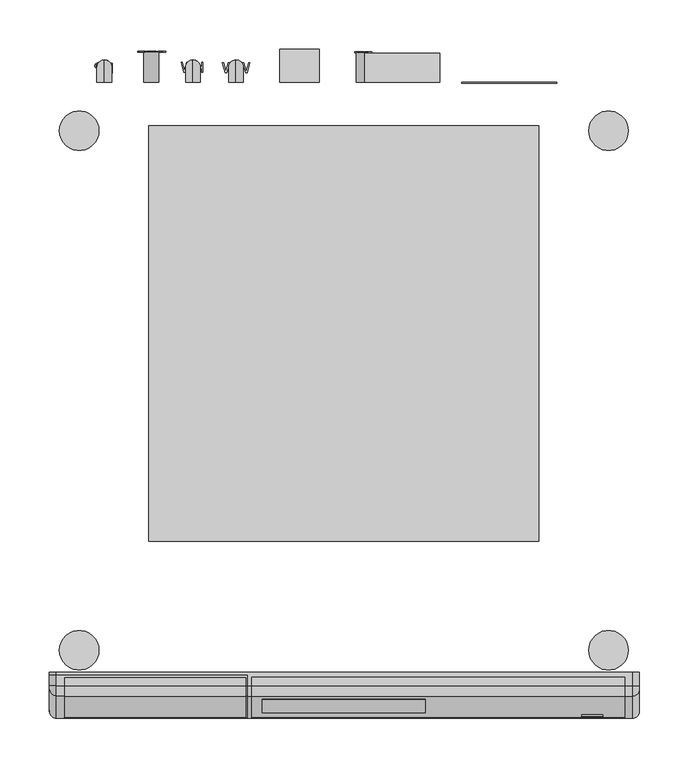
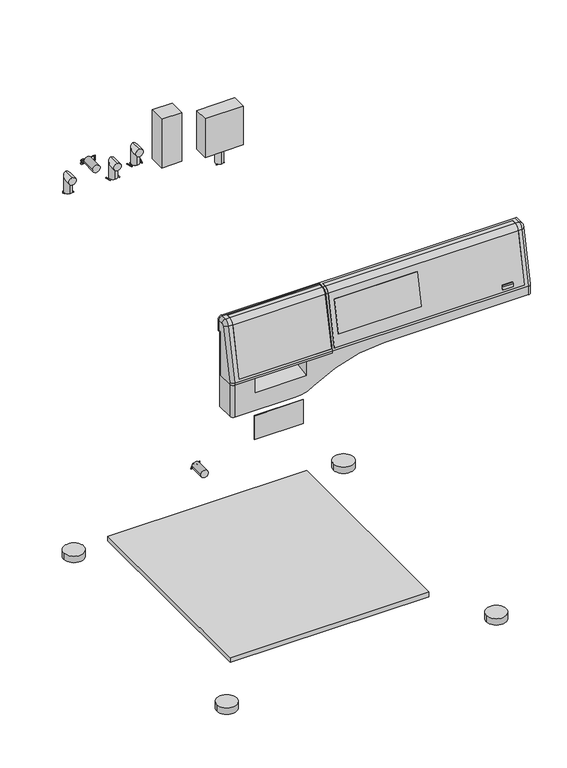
"""IFC4 building model written with IfcOpenShell, lengths in millimetres: proxy geometry, 11094070_F_PWM906DP_SST : 51906351_F_11094070_PWM906DP_SST."""

from ifc_helpers import new_model, si_unit, point, frame, frame_2d, origin, origin_with_axes, place, context, project, spatial, polyline, circle_curve, ellipse_curve, trimmed, segment, composite_curve, outline, extrude, source, transform, mapped, element, save
from ifc_brep_helpers import plane_surface, cylinder_surface, revolved_surface, advanced_brep


def specialty_equipment_d2f98325(model_context):
    return source(origin(), model_context, "Body", "SolidModel", [
        advanced_brep(
        [(-297.5, -634.5, 819.0), (-297.5, -640.0, 819.0), (-297.5, -640.0, 727.0), (-297.5, -671.0, 727.0), (-297.5, -671.0, 730.2642704), (-297.5, -648.6353607, 835.4816256), (-297.5, -644.8274781, 838.6486082), (-297.5, -634.5, 838.9190427), (-97.5, -655.4823939, 836.9370075), (-97.5, -678.0, 731.0), (-97.5, -678.0, 727.0), (-97.5, -640.0, 727.0), (-97.5, -640.0, 819.0), (-97.5, -634.5, 819.0), (-97.5, -634.5, 845.9214422), (-97.5, -645.0107168, 845.6462094), (-98.5, -655.4823939, 836.9370075), (-98.5, -677.1497738, 735.0), (-282.5, -677.1497738, 735.0), (-282.5, -655.4823939, 836.9370075), (-290.5, -655.4823939, 836.9370075), (-290.5, -678.0, 731.0), (-290.5, -678.0, 727.0), (-290.5, -634.5, 845.9214422), (-290.5, -645.0107168, 845.6462094), (-282.5, -645.0107168, 845.6462094), (-282.5, -636.5, 845.8690704), (-98.5, -636.5, 845.8690704), (-98.5, -645.0107168, 845.6462094), (-98.5, -654.5042463, 836.7290958), (-98.5, -676.1274332, 735.0), (-98.5, -636.5, 844.8687276), (-98.5, -644.9845398, 844.6465521), (-282.5, -654.5042463, 836.7290958), (-282.5, -644.9845398, 844.6465521), (-282.5, -636.5, 844.8687276), (-282.5, -676.1274332, 735.0)],
        [
            (0, 1),
            (1, 2),
            (2, 3),
            (3, 4),
            (4, 5),
            (5, 6, circle_curve(frame((-297.5, -644.7227703, 834.6499789), z_axis=(-1.0, 0.0, 0.0), x_axis=(0.0, -0.978147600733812, 0.20791169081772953)), 4.0)),
            (6, 7),
            (7, 0),
            (8, 9),
            (9, 10),
            (10, 11),
            (11, 12),
            (12, 13),
            (13, 14),
            (14, 15),
            (15, 8, circle_curve(frame((-97.5, -644.7227703, 834.6499789), z_axis=(1.0, 0.0, 0.0), x_axis=(0.0, 1.0, 0.0)), 11.0)),
            (8, 16),
            (16, 17),
            (17, 18),
            (18, 19),
            (19, 20),
            (20, 21),
            (21, 9),
            (21, 22),
            (22, 10),
            (22, 3, circle_curve(frame((-290.5, -671.0, 727.0), z_axis=(0.0, 0.0, -1.0), x_axis=(0.0, 1.0, 0.0)), 7.0)),
            (2, 11),
            (1, 12),
            (0, 13),
            (7, 23, ellipse_curve(frame((-290.5, -634.5, 838.9190427), z_axis=(0.0, 1.0, 0.0), x_axis=(0.0, 0.0, 1.0)), 7.0023995, 7.0)),
            (23, 14),
            (23, 24),
            (24, 25),
            (25, 26),
            (26, 27),
            (27, 28),
            (28, 15),
            (28, 16, circle_curve(frame((-98.5, -644.7227703, 834.6499789), z_axis=(1.0, 0.0, 0.0), x_axis=(0.0, 1.0, 0.0)), 11.0)),
            (19, 25, circle_curve(frame((-282.5, -644.7227703, 834.6499789), z_axis=(-1.0, 0.0, 0.0), x_axis=(0.0, 1.0, 0.0)), 11.0)),
            (24, 20, circle_curve(frame((-290.5, -644.7227703, 834.6499789), z_axis=(1.0, 0.0, 0.0), x_axis=(0.0, 1.0, 0.0)), 11.0)),
            (29, 30),
            (30, 17),
            (27, 31),
            (31, 32),
            (32, 29, circle_curve(frame((-98.5, -644.7227703, 834.6499789), z_axis=(1.0, 0.0, 0.0), x_axis=(0.0, 1.0, 0.0)), 10.0)),
            (33, 34, circle_curve(frame((-282.5, -644.7227703, 834.6499789), z_axis=(-1.0, 0.0, 0.0), x_axis=(0.0, 1.0, 0.0)), 10.0)),
            (34, 35),
            (35, 26),
            (18, 36),
            (36, 33),
            (29, 33),
            (36, 30),
            (32, 34),
            (31, 35),
            (21, 4, ellipse_curve(frame((-290.5, -671.0, 730.2642704), z_axis=(0.0, -0.10452846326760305, -0.9945218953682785), x_axis=(0.0, -0.9945218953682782, 0.1045284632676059)), 7.038558, 7.0)),
            (20, 5, circle_curve(frame((-290.5, -648.6353607, 835.4816256), z_axis=(0.0, -0.2079116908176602, -0.9781476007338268), x_axis=(0.0, 0.9781476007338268, -0.2079116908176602)), 7.0)),
            (24, 6, circle_curve(frame((-290.5, -644.8274781, 838.6486082), z_axis=(0.0, -0.9996573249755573, -0.026176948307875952), x_axis=(0.0, 0.026176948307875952, -0.9996573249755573)), 7.0)),
        ],
        [
            plane_surface(frame((-297.5, -655.4823939, 836.9370075), z_axis=(-1.0, 0.0, 0.0), x_axis=(0.0, 0.20791169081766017, 0.9781476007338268))),
            plane_surface(frame((-97.5, -655.4823939, 836.9370075), z_axis=(1.0, 0.0, 0.0), x_axis=(0.0, -0.20791169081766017, -0.9781476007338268))),
            plane_surface(frame((-97.5, -655.4823939, 836.9370075), z_axis=(0.0, -0.9781476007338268, 0.20791169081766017), x_axis=(-1.0, 0.0, 0.0))),
            plane_surface(frame((-97.5, -678.0, 731.0), z_axis=(0.0, -1.0, 0.0), x_axis=(-1.0, 0.0, 0.0))),
            plane_surface(frame((-97.5, -678.0, 727.0), z_axis=(0.0, 0.0, -1.0), x_axis=(-1.0, 0.0, 0.0))),
            plane_surface(frame((-97.5, -640.0, 727.0), z_axis=(0.0, 1.0, 0.0), x_axis=(-1.0, 0.0, 0.0))),
            plane_surface(frame((-97.5, -640.0, 819.0), z_axis=(0.0, 0.0, -1.0), x_axis=(-1.0, 0.0, 0.0))),
            plane_surface(frame((-97.5, -634.5, 819.0), z_axis=(0.0, 1.0, 0.0), x_axis=(-1.0, 0.0, 0.0))),
            plane_surface(frame((-97.5, -634.5, 845.9214422), z_axis=(0.0, -0.02617694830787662, 0.9996573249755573), x_axis=(-1.0, 0.0, 0.0))),
            cylinder_surface(frame((-297.5, -644.7227703, 834.6499789), z_axis=(1.0, 0.0, 0.0), x_axis=(0.0, 1.0, 0.0)), 11.0),
            plane_surface(frame((-98.5, -634.7227703, 834.6499789), z_axis=(-1.0, 0.0, 0.0), x_axis=(0.0, 0.0, -1.0))),
            plane_surface(frame((-282.5, -634.7227703, 834.6499789), z_axis=(1.0, 0.0, 0.0), x_axis=(0.0, 0.0, 1.0))),
            plane_surface(frame((-98.5, -676.1274332, 735.0), z_axis=(0.0, -0.9781476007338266, 0.2079116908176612), x_axis=(-1.0, 0.0, 0.0))),
            cylinder_surface(frame((-282.5, -644.7227703, 834.6499789), z_axis=(-1.0, 0.0, 0.0), x_axis=(0.0, 1.0, 0.0)), 10.0),
            plane_surface(frame((-98.5, -644.9845398, 844.6465521), z_axis=(0.0, -0.026176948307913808, 0.9996573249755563), x_axis=(-1.0, 0.0, 0.0))),
            plane_surface(frame((-98.5, -636.5, 844.8687276), z_axis=(0.0, -1.0, 0.0), x_axis=(-1.0, 0.0, 0.0))),
            plane_surface(frame((-98.5, -677.1497738, 735.0), z_axis=(0.0, 0.0, 1.0), x_axis=(-1.0, 0.0, 0.0))),
            cylinder_surface(frame((-290.5, -671.0, 727.0), z_axis=(0.0, 0.0, 1.0), x_axis=(0.0, 1.0, 0.0)), 7.0),
            cylinder_surface(frame((-290.5, -671.1529668, 729.5446182), z_axis=(0.0, 0.2079116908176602, 0.9781476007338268), x_axis=(0.0, 0.9781476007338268, -0.2079116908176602)), 7.0),
            revolved_surface(trimmed(ellipse_curve(frame((-290.5, -648.6353607, 835.4816256), z_axis=(0.0, -0.20791169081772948, -0.978147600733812), x_axis=(0.0, 0.978147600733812, -0.20791169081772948)), 7.0, 7.0), [point((-290.5, -655.4823939, 836.9370075))], [point((-297.5, -648.6353607, 835.4816256))], True, "CARTESIAN"), (-297.5, -644.7227703, 834.6499789), (-1.0, 0.0, 0.0)),
            cylinder_surface(frame((-290.5, -644.8274781, 838.6486082), z_axis=(0.0, 0.9996573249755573, 0.026176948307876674), x_axis=(0.0, 0.026176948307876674, -0.9996573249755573)), 7.0),
        ],
        [
            (0, [[1, 2, 3, 4, 5, 6, 7, 8]]),
            (1, [[9, 10, 11, 12, 13, 14, 15, 16]]),
            (2, [[-9, 17, 18, 19, 20, 21, 22, 23]]),
            (3, [[-10, -23, 24, 25]]),
            (4, [[-11, -25, 26, -3, 27]]),
            (5, [[-2, 28, -12, -27]]),
            (6, [[-1, 29, -13, -28]]),
            (7, [[-14, -29, -8, 30, 31]]),
            (8, [[-15, -31, 32, 33, 34, 35, 36, 37]]),
            (9, [[-16, -37, 38, -17]]),
            (9, [[39, -33, 40, -21]]),
            (10, [[41, 42, -18, -38, -36, 43, 44, 45]]),
            (11, [[46, 47, 48, -34, -39, -20, 49, 50]]),
            (12, [[-41, 51, -50, 52]]),
            (13, [[-45, 53, -46, -51]]),
            (14, [[-44, 54, -47, -53]]),
            (15, [[-43, -35, -48, -54]]),
            (16, [[-42, -52, -49, -19]]),
            (17, [[55, -4, -26, -24]]),
            (18, [[-55, -22, 56, -5]]),
            (19, [[-56, -40, 57, -6]]),
            (20, [[-57, -32, -30, -7]]),
        ],
    ),
        extrude(outline(polyline([(-671.2386322, 758.0), (-672.2609728, 758.0), (-658.4447963, 823.0), (-657.4224557, 823.0), (-671.2386322, 758.0)])), frame((-82.5, 0.0, 0.0), z_axis=(1.0, 0.0, 0.0), x_axis=(0.0, 1.0, 0.0)), (0.0, 0.0, 1.0), 165.0),
        advanced_brep(
        [(284.0, -654.5042463, 836.7290958), (284.0, -644.9845398, 844.6465521), (284.0, -636.5, 844.8687276), (284.0, -636.5, 845.8690704), (284.0, -645.0107168, 845.6462094), (284.0, -655.4823939, 836.9370075), (284.0, -677.1497738, 735.0), (284.0, -676.1274332, 735.0), (-93.0, -654.5042463, 836.7290958), (-93.0, -676.1274332, 735.0), (-93.0, -677.1497738, 735.0), (-93.0, -655.4823939, 836.9370075), (-93.0, -645.0107168, 845.6462094), (-93.0, -636.5, 845.8690704), (-93.0, -636.5, 844.8687276), (-93.0, -644.9845398, 844.6465521), (82.5, -658.4447963, 823.0), (82.5, -672.2609728, 758.0), (-82.5, -672.2609728, 758.0), (-82.5, -658.4447963, 823.0), (82.5, -671.2386322, 758.0), (82.5, -657.4224557, 823.0), (-82.5, -657.4224557, 823.0), (-82.5, -671.2386322, 758.0)],
        [
            (0, 1, circle_curve(frame((284.0, -644.7227703, 834.6499789), z_axis=(-1.0, 0.0, 0.0), x_axis=(0.0, 1.0, 0.0)), 10.0)),
            (1, 2),
            (2, 3),
            (3, 4),
            (4, 5, circle_curve(frame((284.0, -644.7227703, 834.6499789), z_axis=(1.0, 0.0, 0.0), x_axis=(0.0, 1.0, 0.0)), 11.0)),
            (5, 6),
            (6, 7),
            (7, 0),
            (8, 9),
            (9, 10),
            (10, 11),
            (11, 12, circle_curve(frame((-93.0, -644.7227703, 834.6499789), z_axis=(-1.0, 0.0, 0.0), x_axis=(0.0, 1.0, 0.0)), 11.0)),
            (12, 13),
            (13, 14),
            (14, 15),
            (15, 8, circle_curve(frame((-93.0, -644.7227703, 834.6499789), z_axis=(1.0, 0.0, 0.0), x_axis=(0.0, 1.0, 0.0)), 10.0)),
            (0, 8),
            (15, 1),
            (14, 2),
            (13, 3),
            (12, 4),
            (11, 5),
            (10, 6),
            (16, 17),
            (17, 18),
            (18, 19),
            (19, 16),
            (9, 7),
            (20, 21),
            (21, 22),
            (22, 23),
            (23, 20),
            (20, 17),
            (16, 21),
            (22, 19),
            (18, 23),
        ],
        [
            plane_surface(frame((284.0, -634.7227703, 834.6499789), z_axis=(1.0, 0.0, 0.0), x_axis=(0.0, 0.0, -1.0))),
            plane_surface(frame((-93.0, -634.7227703, 834.6499789), z_axis=(-1.0, 0.0, 0.0), x_axis=(0.0, 0.0, 1.0))),
            revolved_surface(polyline([(-93.0, -634.7227703, 834.6499789), (284.0, -634.7227703, 834.6499789)]), (-93.0, -644.7227703, 834.6499789), (-1.0, 0.0, 0.0)),
            plane_surface(frame((284.0, -644.9845398, 844.6465521), z_axis=(0.0, 0.02617694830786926, -0.9996573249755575), x_axis=(-1.0, 0.0, 0.0))),
            plane_surface(frame((284.0, -636.5, 844.8687276), z_axis=(0.0, 1.0, 0.0), x_axis=(-1.0, 0.0, 0.0))),
            plane_surface(frame((284.0, -636.5, 845.8690704), z_axis=(0.0, -0.026176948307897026, 0.9996573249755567), x_axis=(-1.0, 0.0, 0.0))),
            cylinder_surface(frame((-93.0, -644.7227703, 834.6499789), z_axis=(1.0, 0.0, 0.0), x_axis=(0.0, 1.0, 0.0)), 11.0),
            plane_surface(frame((284.0, -655.4823939, 836.9370075), z_axis=(0.0, -0.9781476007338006, 0.20791169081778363), x_axis=(-1.0, 0.0, 0.0))),
            plane_surface(frame((284.0, -677.1497738, 735.0), z_axis=(0.0, 0.0, -1.0), x_axis=(-1.0, 0.0, 0.0))),
            plane_surface(frame((284.0, -676.1274332, 735.0), z_axis=(0.0, 0.9781476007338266, -0.2079116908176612), x_axis=(-1.0, 0.0, 0.0))),
            plane_surface(frame((82.5, -658.4447963, 823.0), z_axis=(-1.0, 0.0, 0.0), x_axis=(0.0, -1.0, 0.0))),
            plane_surface(frame((-82.5, -658.4447963, 823.0), z_axis=(1.0, 0.0, 0.0), x_axis=(0.0, 1.0, 0.0))),
            plane_surface(frame((82.5, -657.4224557, 823.0), z_axis=(0.0, 0.0, -1.0), x_axis=(-1.0, 0.0, 0.0))),
            plane_surface(frame((82.5, -672.2609728, 758.0), z_axis=(0.0, 0.0, 1.0), x_axis=(-1.0, 0.0, 0.0))),
        ],
        [
            (0, [[1, 2, 3, 4, 5, 6, 7, 8]]),
            (1, [[9, 10, 11, 12, 13, 14, 15, 16]]),
            (2, [[-1, 17, -16, 18]]),
            (3, [[-2, -18, -15, 19]]),
            (4, [[-3, -19, -14, 20]]),
            (5, [[-4, -20, -13, 21]]),
            (6, [[-5, -21, -12, 22]]),
            (7, [[-6, -22, -11, 23], [24, 25, 26, 27]]),
            (8, [[-7, -23, -10, 28]]),
            (9, [[-8, -28, -9, -17], [29, 30, 31, 32]]),
            (10, [[33, -24, 34, -29]]),
            (11, [[35, -26, 36, -31]]),
            (12, [[-34, -27, -35, -30]]),
            (13, [[-33, -32, -36, -25]]),
        ],
    ),
        advanced_brep(
        [(298.5, -637.0, 816.0), (298.5, -631.5, 816.0), (298.5, -631.5, 838.9976005), (298.5, -644.8274781, 838.6486082), (298.5, -648.6353607, 835.4816256), (298.5, -671.0, 730.2642704), (298.5, -671.0, 713.0), (298.5, -637.0, 713.0), (-297.5, -637.0, 816.0), (-297.5, -637.0, 660.0), (-297.5, -671.0, 660.0), (-297.5, -671.0, 727.0), (-297.5, -640.0, 727.0), (-297.5, -640.0, 819.0), (-297.5, -634.5, 819.0), (-297.5, -634.5, 838.9190427), (-297.5, -631.5, 838.9976005), (-297.5, -631.5, 816.0), (-290.5, -631.5, 846.0), (291.5, -631.5, 846.0), (284.0, -636.5, 845.8690704), (284.0, -645.0107168, 845.6462094), (291.5, -645.0107168, 845.6462094), (-290.5, -634.5, 845.9214422), (-97.5, -634.5, 845.9214422), (-97.5, -645.0107168, 845.6462094), (-93.0, -645.0107168, 845.6462094), (-93.0, -636.5, 845.8690704), (284.0, -655.4823939, 836.9370075), (291.5000072, -655.4823939, 836.9370075), (-93.0, -655.4823939, 836.9370075), (-97.5, -655.4823939, 836.9370075), (284.0, -677.1497738, 735.0), (-93.0, -677.1497738, 735.0), (-97.5, -678.0, 731.0), (291.5, -678.0, 731.0), (-97.5, -678.0, 727.0), (-148.5, -678.0, 727.0), (-148.5, -678.0, 697.0), (-251.5, -678.0, 697.0), (-251.5, -678.0, 727.0), (-290.5, -678.0, 727.0), (-290.5, -678.0, 660.0), (-170.6302935, -678.0, 660.0), (-135.780818, -678.0, 670.5165354), (5.0, -678.0, 713.0), (291.5, -678.0, 713.0), (-170.6302935, -637.0, 660.0), (5.0, -637.0, 713.0), (-135.780818, -637.0, 670.5165354), (284.0, -636.5, 844.8687276), (284.0, -644.9845398, 844.6465521), (284.0, -654.5042463, 836.7290958), (284.0, -676.1274332, 735.0), (-93.0, -676.1274332, 735.0), (-93.0, -654.5042463, 836.7290958), (-93.0, -644.9845398, 844.6465521), (-93.0, -636.5, 844.8687276), (-97.5, -634.5, 819.0), (-97.5, -640.0, 819.0), (-97.5, -640.0, 727.0), (-148.5, -640.0, 727.0), (-251.5, -640.0, 727.0), (-251.5, -640.0, 703.7004253), (-148.5, -640.0, 703.7004253)],
        [
            (0, 1),
            (1, 2),
            (2, 3),
            (3, 4, circle_curve(frame((298.5, -644.7227703, 834.6499789), z_axis=(1.0, 0.0, 0.0), x_axis=(0.0, -0.02617694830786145, 0.9996573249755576)), 4.0)),
            (4, 5),
            (5, 6),
            (6, 7),
            (7, 0),
            (8, 9),
            (9, 10),
            (10, 11),
            (11, 12),
            (12, 13),
            (13, 14),
            (14, 15),
            (15, 16),
            (16, 17),
            (17, 8),
            (0, 8),
            (17, 1),
            (16, 18, ellipse_curve(frame((-290.5, -631.5, 838.9976005), z_axis=(0.0, 1.0, 0.0), x_axis=(0.0, 0.0, 0.9999999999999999)), 7.0023995, 7.0)),
            (18, 19),
            (19, 2, ellipse_curve(frame((291.5, -631.5, 838.9976005), z_axis=(0.0, 1.0, 0.0), x_axis=(0.0, 0.0, -1.0)), 7.0023995, 7.0)),
            (20, 21),
            (21, 22),
            (22, 19),
            (18, 23),
            (23, 24),
            (24, 25),
            (25, 26),
            (26, 27),
            (27, 20),
            (21, 28, circle_curve(frame((284.0, -644.7227703, 834.6499789), z_axis=(1.0, 0.0, 0.0), x_axis=(0.0, 1.0, 0.0)), 11.0)),
            (28, 29),
            (29, 22, circle_curve(frame((291.5, -644.7227703, 834.6499789), z_axis=(-1.0, 0.0, 0.0), x_axis=(0.0, 1.0, 0.0)), 11.0)),
            (30, 26, circle_curve(frame((-93.0, -644.7227703, 834.6499789), z_axis=(-1.0, 0.0, 0.0), x_axis=(0.0, 1.0, 0.0)), 11.0)),
            (25, 31, circle_curve(frame((-97.5, -644.7227703, 834.6499789), z_axis=(1.0, 0.0, 0.0), x_axis=(0.0, 1.0, 0.0)), 11.0)),
            (31, 30),
            (28, 32),
            (32, 33),
            (33, 30),
            (31, 34),
            (34, 35),
            (35, 29),
            (34, 36),
            (36, 37),
            (37, 38),
            (38, 39),
            (39, 40),
            (40, 41),
            (41, 42),
            (42, 43),
            (43, 44, circle_curve(frame((-170.6302935, -678.0, 723.0), z_axis=(0.0, -1.0, 0.0), x_axis=(1.0, 0.0, 0.0)), 63.0)),
            (44, 45, circle_curve(frame((5.0, -678.0, 458.5), z_axis=(0.0, 1.0, 0.0), x_axis=(1.0, 0.0, 0.0)), 254.5)),
            (45, 46),
            (46, 35),
            (9, 47),
            (47, 43),
            (42, 10, circle_curve(frame((-290.5, -671.0, 660.0), z_axis=(0.0, 0.0, -1.0), x_axis=(0.0, 1.0, 0.0)), 7.0)),
            (7, 48),
            (48, 49, circle_curve(frame((5.0, -637.0, 458.5), z_axis=(0.0, -1.0, 0.0), x_axis=(1.0, 0.0, 0.0)), 254.5)),
            (49, 47, circle_curve(frame((-170.6302935, -637.0, 723.0), z_axis=(0.0, 1.0, 0.0), x_axis=(1.0, 0.0, 0.0)), 63.0)),
            (20, 50),
            (50, 51),
            (51, 52, circle_curve(frame((284.0, -644.7227703, 834.6499789), z_axis=(1.0, 0.0, 0.0), x_axis=(0.0, 1.0, 0.0)), 10.0)),
            (52, 53),
            (53, 32),
            (33, 54),
            (54, 55),
            (55, 56, circle_curve(frame((-93.0, -644.7227703, 834.6499789), z_axis=(-1.0, 0.0, 0.0), x_axis=(0.0, 1.0, 0.0)), 10.0)),
            (56, 57),
            (57, 27),
            (53, 54),
            (52, 55),
            (51, 56),
            (50, 57),
            (24, 58),
            (58, 59),
            (59, 60),
            (60, 36),
            (60, 61),
            (61, 37),
            (62, 12),
            (11, 41, circle_curve(frame((-290.5, -671.0, 727.0), z_axis=(0.0, 0.0, 1.0), x_axis=(0.0, 1.0, 0.0)), 7.0)),
            (40, 62),
            (59, 13),
            (62, 63),
            (63, 64),
            (64, 61),
            (58, 14),
            (23, 15, ellipse_curve(frame((-290.5, -634.5, 838.9190427), z_axis=(0.0, -1.0, 0.0), x_axis=(0.0, 0.0, 0.9999999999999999)), 7.0023995, 7.0)),
            (64, 38),
            (39, 63),
            (22, 3, circle_curve(frame((291.5, -644.8274781, 838.6486082), z_axis=(0.0, 0.9996573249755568, 0.02617694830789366), x_axis=(1.0, 0.0, 0.0)), 7.0)),
            (29, 4, circle_curve(frame((291.5, -648.6353607, 835.4816256), z_axis=(0.0, 0.20791169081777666, 0.9781476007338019), x_axis=(1.0, 0.0, 0.0)), 7.0)),
            (35, 5, ellipse_curve(frame((291.5, -671.0, 730.2642704), z_axis=(0.0, 0.10452846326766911, 0.9945218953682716), x_axis=(0.0, -0.9945218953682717, 0.10452846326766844)), 7.038558, 7.0)),
            (46, 6, circle_curve(frame((291.5, -671.0, 713.0), z_axis=(0.0, 0.0, 1.0), x_axis=(1.0, 0.0, 0.0)), 7.0)),
            (45, 48),
            (44, 49),
        ],
        [
            plane_surface(frame((298.5, -631.5, 816.0), z_axis=(1.0, 0.0, 0.0), x_axis=(0.0, 1.0, 0.0))),
            plane_surface(frame((-297.5, -631.5, 816.0), z_axis=(-1.0, 0.0, 0.0), x_axis=(0.0, -1.0, 0.0))),
            plane_surface(frame((298.5, -637.0, 816.0), z_axis=(0.0, 0.0, -1.0), x_axis=(-1.0, 0.0, 0.0))),
            plane_surface(frame((298.5, -631.5, 816.0), z_axis=(0.0, 1.0, 0.0), x_axis=(-1.0, 0.0, 0.0))),
            plane_surface(frame((298.5, -631.5, 846.0), z_axis=(0.0, -0.026176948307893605, 0.9996573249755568), x_axis=(-1.0, 0.0, 0.0))),
            cylinder_surface(frame((-297.5, -644.7227703, 834.6499789), z_axis=(1.0, 0.0, 0.0), x_axis=(0.0, 1.0, 0.0)), 11.0),
            plane_surface(frame((298.5, -655.4823939, 836.9370075), z_axis=(0.0, -0.9781476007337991, 0.20791169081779), x_axis=(-1.0, 0.0, 0.0))),
            plane_surface(frame((298.5, -678.0, 731.0), z_axis=(0.0, -1.0, 0.0), x_axis=(-1.0, 0.0, 0.0))),
            plane_surface(frame((298.5, -678.0, 660.0), z_axis=(0.0, 0.0, -1.0), x_axis=(-1.0, 0.0, 0.0))),
            plane_surface(frame((298.5, -637.0, 660.0), z_axis=(0.0, 1.0, 0.0), x_axis=(-1.0, 0.0, 0.0))),
            plane_surface(frame((284.0, -677.1497738, 735.0), z_axis=(-1.0, 0.0, 0.0), x_axis=(0.0, 1.0, 0.0))),
            plane_surface(frame((-93.0, -677.1497738, 735.0), z_axis=(1.0, 0.0, 0.0), x_axis=(0.0, -1.0, 0.0))),
            plane_surface(frame((284.0, -677.1497738, 735.0), z_axis=(0.0, 0.0, 1.0), x_axis=(-1.0, 0.0, 0.0))),
            plane_surface(frame((284.0, -676.1274332, 735.0), z_axis=(0.0, -0.9781476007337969, 0.20791169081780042), x_axis=(-1.0, 0.0, 0.0))),
            cylinder_surface(frame((-93.0, -644.7227703, 834.6499789), z_axis=(-1.0, 0.0, 0.0), x_axis=(0.0, 1.0, 0.0)), 10.0),
            plane_surface(frame((284.0, -644.9845398, 844.6465521), z_axis=(0.0, -0.026176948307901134, 0.9996573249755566), x_axis=(-1.0, 0.0, 0.0))),
            plane_surface(frame((284.0, -636.5, 844.8687276), z_axis=(0.0, -1.0, 0.0), x_axis=(-1.0, 0.0, 0.0))),
            plane_surface(frame((-97.5, -678.0, 727.0), z_axis=(-1.0, 0.0, 0.0), x_axis=(0.0, 1.0, 0.0))),
            plane_surface(frame((-97.5, -678.0, 727.0), z_axis=(0.0, 0.0, 1.0), x_axis=(-1.0, 0.0, 0.0))),
            plane_surface(frame((-97.5, -640.0, 727.0), z_axis=(0.0, -1.0, 0.0), x_axis=(-1.0, 0.0, 0.0))),
            plane_surface(frame((-97.5, -640.0, 819.0), z_axis=(0.0, 0.0, 1.0), x_axis=(-1.0, 0.0, 0.0))),
            plane_surface(frame((-97.5, -634.5, 819.0), z_axis=(0.0, -1.0, 0.0), x_axis=(-1.0, 0.0, 0.0))),
            plane_surface(frame((-148.5, -678.0, 697.0), z_axis=(-1.0000000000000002, 0.0, 0.0), x_axis=(0.0, 0.9848077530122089, 0.17364817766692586))),
            plane_surface(frame((-251.5, -678.0, 697.0), z_axis=(1.0000000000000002, 0.0, 0.0), x_axis=(0.0, -0.9848077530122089, -0.17364817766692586))),
            plane_surface(frame((-148.5, -678.0, 697.0), z_axis=(0.0, -0.17364817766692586, 0.9848077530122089), x_axis=(-1.0, 0.0, 0.0))),
            cylinder_surface(frame((-290.5, -671.0, 660.0), z_axis=(0.0, 0.0, 1.0), x_axis=(0.0, 1.0, 0.0)), 7.0),
            cylinder_surface(frame((-290.5, -644.8274781, 838.6486082), z_axis=(0.0, 0.9996573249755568, 0.02617694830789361), x_axis=(0.0, 0.02617694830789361, -0.9996573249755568)), 7.0),
            cylinder_surface(frame((291.5, -631.3167614, 839.0023987), z_axis=(0.0, -0.9996573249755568, -0.02617694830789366), x_axis=(1.0, 0.0, 0.0)), 7.0),
            revolved_surface(trimmed(ellipse_curve(frame((291.5, -644.8274781, 838.6486082), z_axis=(0.0, 0.9996573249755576, 0.026176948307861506), x_axis=(1.0, 0.0, 0.0)), 7.0, 7.0), [point((291.5, -645.0107168, 845.6462094))], [point((298.5, -644.8274781, 838.6486082))], True, "CARTESIAN"), (298.5, -644.7227703, 834.6499789), (1.0, 0.0, 0.0)),
            cylinder_surface(frame((291.5, -648.6353607, 835.4816256), z_axis=(0.0, -0.20791169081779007, -0.9781476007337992), x_axis=(1.0, 0.0, 0.0)), 7.0),
            cylinder_surface(frame((291.5, -671.0, 731.0), z_axis=(0.0, 0.0, -1.0), x_axis=(1.0, 0.0, 0.0)), 7.0),
            plane_surface(frame((298.5, -678.0, 713.0), z_axis=(0.0, 0.0, -1.0), x_axis=(0.0, 1.0, 0.0))),
            revolved_surface(polyline([(259.5, -678.0, 458.5), (259.5, -637.0, 458.5)]), (5.0, -637.0, 458.5), (0.0, -1.0, 0.0)),
            cylinder_surface(frame((-170.6302935, -637.0, 723.0), z_axis=(0.0, 1.0, 0.0), x_axis=(1.0, 0.0, 0.0)), 63.0),
        ],
        [
            (0, [[1, 2, 3, 4, 5, 6, 7, 8]]),
            (1, [[9, 10, 11, 12, 13, 14, 15, 16, 17, 18]]),
            (2, [[-1, 19, -18, 20]]),
            (3, [[-20, -17, 21, 22, 23, -2]]),
            (4, [[24, 25, 26, -22, 27, 28, 29, 30, 31, 32]]),
            (5, [[33, 34, 35, -25]]),
            (5, [[36, -30, 37, 38]]),
            (6, [[39, 40, 41, -38, 42, 43, 44, -34]]),
            (7, [[45, 46, 47, 48, 49, 50, 51, 52, 53, 54, 55, 56, -43]]),
            (8, [[-10, 57, 58, -52, 59]]),
            (9, [[-9, -19, -8, 60, 61, 62, -57]]),
            (10, [[63, 64, 65, 66, 67, -39, -33, -24]]),
            (11, [[68, 69, 70, 71, 72, -31, -36, -41]]),
            (12, [[-67, 73, -68, -40]]),
            (13, [[-66, 74, -69, -73]]),
            (14, [[-65, 75, -70, -74]]),
            (15, [[-64, 76, -71, -75]]),
            (16, [[-63, -32, -72, -76]]),
            (17, [[77, 78, 79, 80, -45, -42, -37, -29]]),
            (18, [[-80, 81, 82, -46]]),
            (18, [[83, -12, 84, -50, 85]]),
            (19, [[-79, 86, -13, -83, 87, 88, 89, -81]]),
            (20, [[-78, 90, -14, -86]]),
            (21, [[-77, -28, 91, -15, -90]]),
            (22, [[-89, 92, -47, -82]]),
            (23, [[93, -87, -85, -49]]),
            (24, [[-92, -88, -93, -48]]),
            (25, [[-11, -59, -51, -84]]),
            (26, [[-16, -91, -27, -21]]),
            (27, [[94, -3, -23, -26]]),
            (28, [[-94, -35, 95, -4]]),
            (29, [[-95, -44, 96, -5]]),
            (30, [[-96, -56, 97, -6]]),
            (31, [[98, -60, -7, -97, -55]]),
            (32, [[-98, -54, 99, -61]]),
            (33, [[-99, -53, -58, -62]]),
        ],
    ),
        extrude(outline(polyline([(-675.8744344, 741.0), (-678.0, 741.0), (-676.8772818, 746.2819736), (-675.6098453, 749.0), (-674.1739819, 749.0), (-675.8744344, 741.0)])), frame((240.5, 0.0, 0.0), z_axis=(1.0, 0.0, 0.0), x_axis=(0.0, 1.0, 0.0)), (0.0, 0.0, 1.0), 21.0),
        extrude(outline(composite_curve([segment(polyline([(-676.1274332, 735.0), (-677.1497738, 735.0), (-655.4823939, 836.9370075)]), True, "CONTINUOUS"), segment(trimmed(circle_curve(frame_2d((-644.7227703, 834.6499789)), 11.0), [point((-655.4823939, 836.9370075))], [point((-645.0107168, 845.6462094))], False, "CARTESIAN"), True, "CONTINUOUS"), segment(polyline([(-645.0107168, 845.6462094), (-636.5, 845.8690704), (-636.5, 844.8687276), (-644.9845398, 844.6465521)]), True, "CONTINUOUS"), segment(trimmed(circle_curve(frame_2d((-644.7227703, 834.6499789)), 10.0), [point((-644.9845398, 844.6465521))], [point((-654.5042463, 836.7290958))], True, "CARTESIAN"), True, "CONTINUOUS"), segment(polyline([(-654.5042463, 836.7290958), (-676.1274332, 735.0)]), True, "CONTINUOUS")], self_intersect=False)), frame((-282.5, 0.0, 0.0), z_axis=(1.0, 0.0, 0.0), x_axis=(0.0, 1.0, 0.0)), (0.0, 0.0, 1.0), 184.0),
        advanced_brep(
        [(-242.0, -35.0, 740.5), (-242.0, -35.0, 755.5), (-242.0, -27.5, 740.5), (-242.0, -12.5, 755.5), (-242.0, -27.5, 718.0), (-242.0, -12.5, 718.0)],
        [
            (0, 1, circle_curve(frame((-242.0, -35.0, 748.0), z_axis=(0.0, -1.0, 0.0), x_axis=(0.0, 0.0, 1.0)), 7.5)),
            (1, 0, circle_curve(frame((-242.0, -35.0, 748.0), z_axis=(0.0, -1.0, 0.0), x_axis=(0.0, 0.0, 1.0)), 7.5)),
            (0, 2),
            (2, 3, ellipse_curve(frame((-242.0, -20.0, 748.0), z_axis=(0.0, -0.7071067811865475, 0.7071067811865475), x_axis=(0.0, -0.7071067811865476, -0.7071067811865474)), 10.6066017, 7.5)),
            (3, 1),
            (3, 2, ellipse_curve(frame((-242.0, -20.0, 748.0), z_axis=(0.0, -0.7071067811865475, 0.7071067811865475), x_axis=(0.0, -0.7071067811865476, -0.7071067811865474)), 10.6066017, 7.5)),
            (4, 5, circle_curve(frame((-242.0, -20.0, 718.0), z_axis=(0.0, 0.0, -1.0), x_axis=(0.0, 1.0, 0.0)), 7.5)),
            (5, 4, circle_curve(frame((-242.0, -20.0, 718.0), z_axis=(0.0, 0.0, -1.0), x_axis=(0.0, 1.0, 0.0)), 7.5)),
            (2, 4),
            (5, 3),
        ],
        [
            plane_surface(frame((-298.0, -35.0, 748.0), z_axis=(0.0, -1.0, 0.0), x_axis=(1.0, 0.0, 0.0))),
            cylinder_surface(frame((-242.0, -35.0, 748.0), z_axis=(0.0, -1.0, 0.0), x_axis=(0.0, 0.0, 1.0)), 7.5),
            plane_surface(frame((-298.0, -20.0, 718.0), z_axis=(0.0, 0.0, -1.0), x_axis=(1.0, 0.0, 0.0))),
            cylinder_surface(frame((-242.0, -20.0, 748.0), z_axis=(0.0, 0.0, 1.0), x_axis=(0.0, 1.0, 0.0)), 7.5),
        ],
        [
            (0, [[1, 2]]),
            (1, [[-1, 3, 4, 5]]),
            (1, [[-2, -5, 6, -3]]),
            (2, [[7, 8]]),
            (3, [[-4, 9, -8, 10]]),
            (3, [[-6, -10, -7, -9]]),
        ],
    ),
        extrude(outline(composite_curve([segment(trimmed(circle_curve(frame_2d((757.5, -194.5)), 7.5), [point((757.5, -187.0))], [point((757.5, -202.0))], False, "CARTESIAN"), True, "CONTINUOUS"), segment(trimmed(circle_curve(frame_2d((757.5, -194.5)), 7.5), [point((757.5, -202.0))], [point((757.5, -187.0))], False, "CARTESIAN"), True, "CONTINUOUS")], self_intersect=False)), frame((0.0, -35.0, 0.0), z_axis=(0.0, 1.0, 0.0), x_axis=(0.0, 0.0, 1.0)), (0.0, 0.0, 1.0), 30.0),
        extrude(outline(polyline([(752.5, -179.9815352), (762.545631, -179.9815352), (762.545631, -183.4469836), (762.4009308, -185.2397952), (761.6823346, -186.7162282), (759.965552, -187.9057134), (757.5767715, -188.3005734), (755.5497417, -188.0332458), (754.0867977, -187.3465327), (753.1756766, -186.4292803), (752.6716783, -185.2287587), (752.5, -183.6137568), (752.5, -179.9815352)]), holes=[polyline([(753.7557039, -181.2372391), (753.7557039, -183.4592463), (753.9371923, -185.0754745), (754.4497746, -186.0074423), (755.6968945, -186.7714105), (757.5963919, -187.0448695), (759.9753621, -186.5089881), (761.0888183, -185.2054595), (761.2899271, -183.4249107), (761.2899271, -181.2372391), (753.7557039, -181.2372391)])]), frame((0.0, -5.0, 0.0), z_axis=(0.0, 1.0, 0.0), x_axis=(0.0, 0.0, 1.0)), (0.0, 0.0, 1.0), 1.0),
        extrude(outline(polyline([(757.390378, -189.5562772), (761.2923797, -190.8953677), (762.702594, -194.3510059), (762.0404064, -196.8501509), (760.1936388, -198.5473132), (757.5056477, -199.1310193), (754.7808684, -198.5166564), (752.9610788, -196.7753483), (752.343037, -194.3436483), (753.0260713, -191.8175252), (754.8900067, -190.1301732), (757.390378, -189.5562772)]), holes=[polyline([(757.3781153, -190.8119811), (754.6091901, -191.816299), (753.5987409, -194.3362906), (754.6190003, -196.8783552), (757.5154579, -197.8753154), (759.5878598, -197.4485723), (760.9600596, -196.2014524), (761.4468901, -194.3583636), (760.508791, -191.8592185), (757.3781153, -190.8119811)])]), frame((0.0, -5.0, 0.0), z_axis=(0.0, 1.0, 0.0), x_axis=(0.0, 0.0, 1.0)), (0.0, 0.0, 1.0), 1.0),
        extrude(outline(polyline([(755.9531857, -200.3867232), (755.9531857, -201.6424271), (754.6962555, -202.0470973), (753.9016304, -203.0354736), (753.5987409, -204.5413372), (753.828054, -205.8534496), (754.4583585, -206.7008045), (755.3008083, -206.9791685), (756.0843969, -206.7707021), (756.654614, -205.9172158), (757.1340869, -204.0888423), (757.7533549, -202.1206737), (758.6877752, -201.0525896), (759.9361214, -200.7006492), (761.3573722, -201.1359762), (762.3604637, -202.4076216), (762.702594, -204.2691045), (762.3445222, -206.2556673), (761.2923797, -207.5800425), (759.7202973, -208.0779094), (759.7202973, -206.8222056), (761.0103368, -206.110967), (761.4468901, -204.3181554), (761.0152419, -202.5204388), (759.9729096, -201.956353), (759.1022555, -202.3561181), (758.4008272, -204.4064471), (757.7705227, -206.6284544), (756.7527159, -207.8436912), (755.3326914, -208.2348724), (753.8305065, -207.7848301), (752.7342182, -206.4898855), (752.343037, -204.5903881), (752.764875, -202.3475342), (754.0352942, -200.928736), (755.9531857, -200.3867232)])), frame((0.0, -5.0, 0.0), z_axis=(0.0, 1.0, 0.0), x_axis=(0.0, 0.0, 1.0)), (0.0, 0.0, 1.0), 1.0),
        advanced_brep(
        [(-152.5, -35.0, 739.0), (-152.5, -35.0, 754.0), (-152.5, -27.5, 739.0), (-152.5, -12.5, 754.0), (-152.5, -27.5, 716.5), (-152.5, -12.5, 716.5)],
        [
            (0, 1, circle_curve(frame((-152.5, -35.0, 746.5), z_axis=(0.0, -1.0, 0.0), x_axis=(0.0, 0.0, 1.0)), 7.5)),
            (1, 0, circle_curve(frame((-152.5, -35.0, 746.5), z_axis=(0.0, -1.0, 0.0), x_axis=(0.0, 0.0, 1.0)), 7.5)),
            (0, 2),
            (2, 3, ellipse_curve(frame((-152.5, -20.0, 746.5), z_axis=(0.0, -0.7071067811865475, 0.7071067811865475), x_axis=(0.0, -0.7071067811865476, -0.7071067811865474)), 10.6066017, 7.5)),
            (3, 1),
            (3, 2, ellipse_curve(frame((-152.5, -20.0, 746.5), z_axis=(0.0, -0.7071067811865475, 0.7071067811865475), x_axis=(0.0, -0.7071067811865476, -0.7071067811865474)), 10.6066017, 7.5)),
            (4, 5, circle_curve(frame((-152.5, -20.0, 716.5), z_axis=(0.0, 0.0, -1.0), x_axis=(0.0, 1.0, 0.0)), 7.5)),
            (5, 4, circle_curve(frame((-152.5, -20.0, 716.5), z_axis=(0.0, 0.0, -1.0), x_axis=(0.0, 1.0, 0.0)), 7.5)),
            (2, 4),
            (5, 3),
        ],
        [
            plane_surface(frame((-298.0, -35.0, 746.5), z_axis=(0.0, -1.0, 0.0), x_axis=(1.0, 0.0, 0.0))),
            cylinder_surface(frame((-152.5, -35.0, 746.5), z_axis=(0.0, -1.0, 0.0), x_axis=(0.0, 0.0, 1.0)), 7.5),
            plane_surface(frame((-298.0, -20.0, 716.5), z_axis=(0.0, 0.0, -1.0), x_axis=(1.0, 0.0, 0.0))),
            cylinder_surface(frame((-152.5, -20.0, 746.5), z_axis=(0.0, 0.0, 1.0), x_axis=(0.0, 1.0, 0.0)), 7.5),
        ],
        [
            (0, [[1, 2]]),
            (1, [[-1, 3, 4, 5]]),
            (1, [[-2, -5, 6, -3]]),
            (2, [[7, 8]]),
            (3, [[-4, 9, -8, 10]]),
            (3, [[-6, -10, -7, -9]]),
        ],
    ),
        advanced_brep(
        [(-109.0, -35.0, 753.5), (-109.0, -35.0, 768.5), (-109.0, -27.5, 753.5), (-109.0, -12.5, 768.5), (-109.0, -27.5, 731.0), (-109.0, -12.5, 731.0)],
        [
            (0, 1, circle_curve(frame((-109.0, -35.0, 761.0), z_axis=(0.0, -1.0, 0.0), x_axis=(0.0, 0.0, 1.0)), 7.5)),
            (1, 0, circle_curve(frame((-109.0, -35.0, 761.0), z_axis=(0.0, -1.0, 0.0), x_axis=(0.0, 0.0, 1.0)), 7.5)),
            (0, 2),
            (2, 3, ellipse_curve(frame((-109.0, -20.0, 761.0), z_axis=(0.0, -0.7071067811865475, 0.7071067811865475), x_axis=(0.0, -0.7071067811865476, -0.7071067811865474)), 10.6066017, 7.5)),
            (3, 1),
            (3, 2, ellipse_curve(frame((-109.0, -20.0, 761.0), z_axis=(0.0, -0.7071067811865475, 0.7071067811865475), x_axis=(0.0, -0.7071067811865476, -0.7071067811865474)), 10.6066017, 7.5)),
            (4, 5, circle_curve(frame((-109.0, -20.0, 731.0), z_axis=(0.0, 0.0, -1.0), x_axis=(0.0, 1.0, 0.0)), 7.5)),
            (5, 4, circle_curve(frame((-109.0, -20.0, 731.0), z_axis=(0.0, 0.0, -1.0), x_axis=(0.0, 1.0, 0.0)), 7.5)),
            (2, 4),
            (5, 3),
        ],
        [
            plane_surface(frame((-298.0, -35.0, 761.0), z_axis=(0.0, -1.0, 0.0), x_axis=(1.0, 0.0, 0.0))),
            cylinder_surface(frame((-109.0, -35.0, 761.0), z_axis=(0.0, -1.0, 0.0), x_axis=(0.0, 0.0, 1.0)), 7.5),
            plane_surface(frame((-298.0, -20.0, 731.0), z_axis=(0.0, 0.0, -1.0), x_axis=(1.0, 0.0, 0.0))),
            cylinder_surface(frame((-109.0, -20.0, 761.0), z_axis=(0.0, 0.0, 1.0), x_axis=(0.0, 1.0, 0.0)), 7.5),
        ],
        [
            (0, [[1, 2]]),
            (1, [[-1, 3, 4, 5]]),
            (1, [[-2, -5, 6, -3]]),
            (2, [[7, 8]]),
            (3, [[-4, 9, -8, 10]]),
            (3, [[-6, -10, -7, -9]]),
        ],
    ),
        extrude(outline(polyline([(-142.5237638, -25.0), (-143.7834134, -25.0), (-143.7834134, -21.5422104), (-145.4717236, -19.9295918), (-149.3062539, -24.9960047), (-150.8371057, -24.9960047), (-146.3635304, -19.0812626), (-150.682024, -14.9545468), (-148.9188384, -14.9545468), (-143.7734276, -19.8714576), (-143.7734276, -14.9547748), (-142.5237638, -14.9547748), (-142.5237638, -25.0)])), frame((0.0, 0.0, 715.5), z_axis=(0.0, 0.0, 1.0), x_axis=(1.0, 0.0, 0.0)), (0.0, 0.0, 1.0), 1.0),
        extrude(outline(polyline([(-153.5799346, -25.0), (-155.1013346, -25.0), (-157.6681659, -16.1680585), (-160.4132353, -25.0), (-161.7588291, -25.0), (-164.4977428, -14.9547748), (-163.1999912, -14.9547748), (-161.1258941, -23.5916213), (-158.6010837, -14.9547748), (-156.7331206, -14.9547748), (-154.2135942, -23.5959701), (-152.1412312, -14.9547748), (-150.8442078, -14.9547748), (-153.5799346, -25.0)])), frame((0.0, 0.0, 715.5), z_axis=(0.0, 0.0, 1.0), x_axis=(1.0, 0.0, 0.0)), (0.0, 0.0, 1.0), 1.0),
        extrude(outline(polyline([(-97.7677732, -25.6276222), (-99.2866418, -25.6276222), (-101.8572009, -16.7897083), (-104.60351, -25.6247434), (-105.9438154, -25.6247434), (-108.6845916, -15.5772781), (-107.3877267, -15.5772781), (-105.310674, -24.218418), (-102.7878261, -15.5770934), (-100.9207392, -15.5770934), (-98.4046917, -24.2181787), (-96.3224721, -15.5728546), (-95.0253096, -15.5728546), (-97.7677732, -25.6276222)])), frame((0.0, 0.0, 730.0), z_axis=(0.0, 0.0, 1.0), x_axis=(1.0, 0.0, 0.0)), (0.0, 0.0, 1.0), 1.0),
        extrude(outline(polyline([(-119.9168184, -25.6276222), (-122.659282, -15.5728546), (-121.3621195, -15.5728546), (-119.2799, -24.2181787), (-116.7638525, -15.5770934), (-114.8967656, -15.5770934), (-112.3739176, -24.218418), (-110.2968649, -15.5772781), (-109.0, -15.5772781), (-111.7407762, -25.6276222), (-113.0810816, -25.6276222), (-115.8273907, -16.7897083), (-118.3979499, -25.6276222), (-119.9168184, -25.6276222)])), frame((0.0, 0.0, 730.0), z_axis=(0.0, 0.0, 1.0), x_axis=(1.0, 0.0, 0.0)), (0.0, 0.0, 1.0), 1.0),
        extrude(outline(polyline([(119.0, -35.0), (215.0, -35.0), (215.0, -36.0), (119.0, -36.0), (119.0, -35.0)])), frame((0.0, 0.0, 80.0), z_axis=(0.0, 0.0, 1.0), x_axis=(1.0, 0.0, 0.0)), (0.0, 0.0, 1.0), 50.0),
        extrude(outline(polyline([(-25.0, -2.0), (-25.0, -35.0), (-65.0, -35.0), (-65.0, -2.0), (-25.0, -2.0)])), frame((0.0, 0.0, 714.0), z_axis=(0.0, 0.0, 1.0), x_axis=(1.0, 0.0, 0.0)), (0.0, 0.0, 1.0), 102.0),
        extrude(outline(composite_curve([segment(polyline([(37.0012365, 26.8350179), (37.0012365, 28.0926569), (47.0457018, 28.0926569), (47.0457018, 24.2588697)]), True, "CONTINUOUS"), segment(trimmed(circle_curve(frame_2d((44.0634182, 24.2588697)), 2.9822837), [point((47.0457018, 24.2588697))], [point((41.0811345, 24.2588697))], False, "CARTESIAN"), True, "CONTINUOUS"), segment(polyline([(41.0811345, 24.2588697), (41.0811345, 26.8350179), (37.0012365, 26.8350179)]), True, "CONTINUOUS")], self_intersect=False), holes=[composite_curve([segment(trimmed(circle_curve(frame_2d((44.0644309, 24.2588697)), 1.7264899), [point((42.3379411, 24.2588697))], [point((45.7909208, 24.2588697))], True, "CARTESIAN"), True, "CONTINUOUS"), segment(polyline([(45.7909208, 24.2588697), (45.7909208, 26.8350179), (42.3379411, 26.8350179), (42.3379411, 24.2588697)]), True, "CONTINUOUS")], self_intersect=False)]), frame((0.0, -5.0, 0.0), z_axis=(0.0, 1.0, 0.0), x_axis=(0.0, 0.0, 1.0)), (0.0, 0.0, 1.0), 1.0),
        extrude(outline(polyline([(37.0006445, 18.6718375), (37.0006445, 20.0), (47.0451716, 15.9923232), (47.0451716, 14.9218811), (37.0004865, 10.9106116), (37.0004865, 12.2393282), (40.1391224, 13.3892124), (40.1391224, 17.526368), (37.0006445, 18.6718375)]), holes=[polyline([(41.3966781, 13.8483756), (45.7905035, 15.4566766), (41.3966781, 17.0651073), (41.3966781, 13.8483756)])]), frame((0.0, -5.0, 0.0), z_axis=(0.0, 1.0, 0.0), x_axis=(0.0, 0.0, 1.0)), (0.0, 0.0, 1.0), 1.0),
        extrude(outline(composite_curve([segment(trimmed(circle_curve(frame_2d((42.0, 20.0)), 7.5), [point((42.0, 27.5))], [point((42.0, 12.5))], False, "CARTESIAN"), True, "CONTINUOUS"), segment(trimmed(circle_curve(frame_2d((42.0, 20.0)), 7.5), [point((42.0, 12.5))], [point((42.0, 27.5))], False, "CARTESIAN"), True, "CONTINUOUS")], self_intersect=False)), frame((0.0, -35.0, 0.0), z_axis=(0.0, 1.0, 0.0), x_axis=(0.0, 0.0, 1.0)), (0.0, 0.0, 1.0), 30.0),
        extrude(outline(polyline([(54.7566495, -26.4555134), (48.4761766, -26.4555134), (48.4761766, -25.1997667), (53.4981583, -25.1997667), (53.4981583, -16.4081759), (54.7566495, -16.4081759), (54.7566495, -26.4555134)])), frame((0.0, 0.0, 675.0), z_axis=(0.0, 0.0, 1.0), x_axis=(1.0, 0.0, 0.0)), (0.0, 0.0, 1.0), 1.0),
        extrude(outline(polyline([(64.0215267, -16.4081759), (64.0215267, -26.4554669), (56.6392877, -26.4554669), (56.6392877, -25.1995171), (62.7595964, -25.1995171), (62.7595964, -21.9031269), (57.1079823, -21.9031269), (57.1079823, -20.6478177), (62.7596269, -20.6478177), (62.7596269, -17.6653752), (56.7945524, -17.6653752), (56.7945524, -16.4081759), (64.0215267, -16.4081759)])), frame((0.0, 0.0, 675.0), z_axis=(0.0, 0.0, 1.0), x_axis=(1.0, 0.0, 0.0)), (0.0, 0.0, 1.0), 1.0),
        extrude(outline(composite_curve([segment(trimmed(circle_curve(frame_2d((57.0, -21.5)), 7.5), [point((57.0, -14.0))], [point((57.0, -29.0))], False, "CARTESIAN"), True, "CONTINUOUS"), segment(trimmed(circle_curve(frame_2d((57.0, -21.5)), 7.5), [point((57.0, -29.0))], [point((57.0, -14.0))], False, "CARTESIAN"), True, "CONTINUOUS")], self_intersect=False)), frame((0.0, 0.0, 676.0), z_axis=(0.0, 0.0, 1.0), x_axis=(1.0, 0.0, 0.0)), (0.0, 0.0, 1.0), 30.0),
        extrude(outline(polyline([(21.0, -6.0), (97.0, -6.0), (97.0, -35.0), (21.0, -35.0), (21.0, -6.0)])), frame((0.0, 0.0, 706.0), z_axis=(0.0, 0.0, 1.0), x_axis=(1.0, 0.0, 0.0)), (0.0, 0.0, 1.0), 81.0),
        extrude(outline(composite_curve([segment(polyline([(-233.9721924, -25.9934177), (-237.4675721, -25.9934177)]), True, "CONTINUOUS"), segment(trimmed(circle_curve(frame_2d((-237.4675721, -20.9704397)), 5.022978), [point((-237.4675721, -25.9934177))], [point((-237.4675721, -15.9474617))], False, "CARTESIAN"), True, "CONTINUOUS"), segment(polyline([(-237.4675721, -15.9474617), (-233.9721924, -15.9474617), (-233.9721924, -25.9934177)]), True, "CONTINUOUS")], self_intersect=False), holes=[composite_curve([segment(trimmed(circle_curve(frame_2d((-237.4675721, -20.9701844)), 3.7676667), [point((-237.4675721, -17.2025176))], [point((-237.4675721, -24.7378511))], True, "CARTESIAN"), True, "CONTINUOUS"), segment(polyline([(-237.4675721, -24.7378511), (-235.22841, -24.7378511), (-235.22841, -17.2025176), (-237.4675721, -17.2025176)]), True, "CONTINUOUS")], self_intersect=False)]), frame((0.0, 0.0, 717.0), z_axis=(0.0, 0.0, 1.0), x_axis=(1.0, 0.0, 0.0)), (0.0, 0.0, 1.0), 1.0),
        extrude(outline(composite_curve([segment(polyline([(-244.8031571, -15.6233055), (-244.8031571, -25.6693963), (-246.0589314, -25.6693963), (-246.0589314, -21.5880656), (-248.6760845, -21.5880656)]), True, "CONTINUOUS"), segment(trimmed(circle_curve(frame_2d((-248.6760845, -18.6056855)), 2.9823801), [point((-248.6760845, -21.5880656))], [point((-248.6760845, -15.6233055))], False, "CARTESIAN"), True, "CONTINUOUS"), segment(polyline([(-248.6760845, -15.6233055), (-244.8031571, -15.6233055)]), True, "CONTINUOUS")], self_intersect=False), holes=[composite_curve([segment(trimmed(circle_curve(frame_2d((-248.7253163, -18.6052432)), 1.7272254), [point((-248.7253163, -16.8780177))], [point((-248.7253163, -20.3324686))], True, "CARTESIAN"), True, "CONTINUOUS"), segment(polyline([(-248.7253163, -20.3324686), (-246.0587296, -20.3324686), (-246.0587296, -16.8780177), (-248.7253163, -16.8780177)]), True, "CONTINUOUS")], self_intersect=False)]), frame((0.0, 0.0, 717.0), z_axis=(0.0, 0.0, 1.0), x_axis=(1.0, 0.0, 0.0)), (0.0, 0.0, 1.0), 1.0),
        extrude(outline(polyline([(197.0, -79.0), (197.0, -499.0), (-197.0, -499.0), (-197.0, -79.0), (197.0, -79.0)])), frame((0.0, 0.0, 3.5), z_axis=(0.0, 0.0, 1.0), x_axis=(1.0, 0.0, 0.0)), (0.0, 0.0, 1.0), 10.0),
        extrude(outline(composite_curve([segment(trimmed(circle_curve(frame_2d((-267.5, -84.0)), 20.0), [point((-247.5, -84.0))], [point((-287.5, -84.0))], False, "CARTESIAN"), True, "CONTINUOUS"), segment(trimmed(circle_curve(frame_2d((-267.5, -84.0)), 20.0), [point((-287.5, -84.0))], [point((-247.5, -84.0))], False, "CARTESIAN"), True, "CONTINUOUS")], self_intersect=False)), origin_with_axes(), (0.0, 0.0, 1.0), 13.5),
        extrude(outline(composite_curve([segment(trimmed(circle_curve(frame_2d((267.5, -84.0)), 20.0), [point((287.5, -84.0))], [point((247.5, -84.0))], False, "CARTESIAN"), True, "CONTINUOUS"), segment(trimmed(circle_curve(frame_2d((267.5, -84.0)), 20.0), [point((247.5, -84.0))], [point((287.5, -84.0))], False, "CARTESIAN"), True, "CONTINUOUS")], self_intersect=False)), origin_with_axes(), (0.0, 0.0, 1.0), 13.5),
        extrude(outline(composite_curve([segment(trimmed(circle_curve(frame_2d((267.5, -609.0)), 20.0), [point((287.5, -609.0))], [point((247.5, -609.0))], False, "CARTESIAN"), True, "CONTINUOUS"), segment(trimmed(circle_curve(frame_2d((267.5, -609.0)), 20.0), [point((247.5, -609.0))], [point((287.5, -609.0))], False, "CARTESIAN"), True, "CONTINUOUS")], self_intersect=False)), origin_with_axes(), (0.0, 0.0, 1.0), 13.5),
        extrude(outline(composite_curve([segment(trimmed(circle_curve(frame_2d((-267.5, -609.0)), 20.0), [point((-247.5, -609.0))], [point((-287.5, -609.0))], False, "CARTESIAN"), True, "CONTINUOUS"), segment(trimmed(circle_curve(frame_2d((-267.5, -609.0)), 20.0), [point((-287.5, -609.0))], [point((-247.5, -609.0))], False, "CARTESIAN"), True, "CONTINUOUS")], self_intersect=False)), origin_with_axes(), (0.0, 0.0, 1.0), 13.5),
    ])


if __name__ == "__main__":
    model = new_model("IFC4")
    model_context = context("Model", 3, world=origin())
    ifc_project = project(units=[si_unit("LENGTHUNIT", "METRE", prefix="MILLI")], contexts=[model_context])
    site = spatial("IfcSite", under=ifc_project)
    building = spatial("IfcBuilding", under=site)
    placement = place(None, origin())
    specialty_equipment_shape = specialty_equipment_d2f98325(model_context)
    element("IfcBuildingElementProxy", 1, Name="11094070_F_PWM906DP_SST : 51906351_F_11094070_PWM906DP_SST", ObjectType="11094070_F_PWM906DP_SST : 51906351_F_11094070_PWM906DP_SST", at=placement, inside=building, context=model_context, shape_type="MappedRepresentation", body=[
        mapped(specialty_equipment_shape, transform((0.0, 0.0, 0.0), x_axis=(1.0, 0.0, 0.0), y_axis=(0.0, 1.0, 0.0), z_axis=(0.0, 0.0, 1.0))),
    ])
    save(model, "model.ifc")
